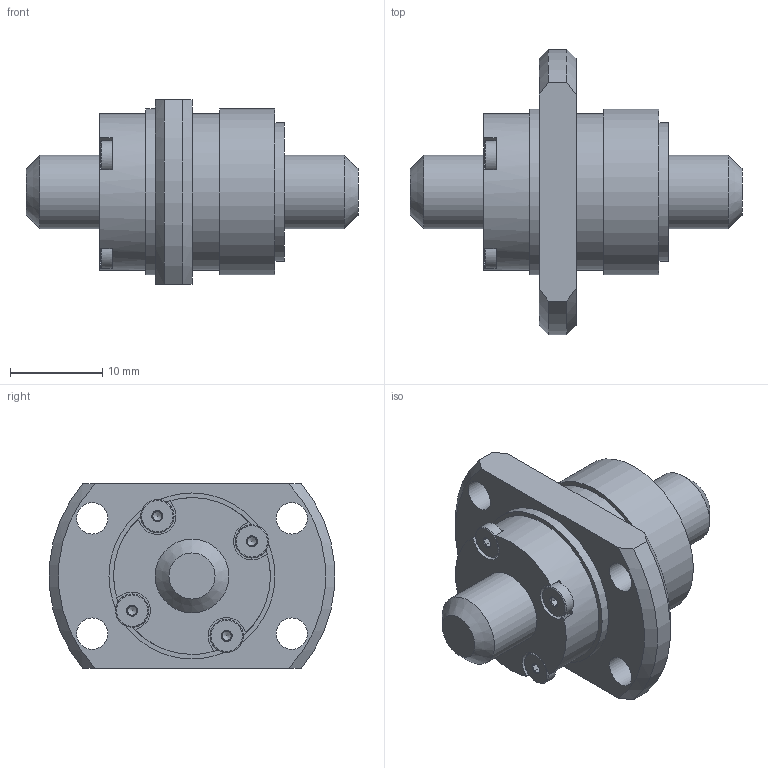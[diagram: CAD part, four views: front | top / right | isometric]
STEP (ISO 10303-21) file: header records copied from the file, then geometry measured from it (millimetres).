
FILE_DESCRIPTION(/* description */ ('STEP AP203'),/* implementation_level */ '2;1');
FILE_NAME(/* name */ 'BLK0808-3.2ZZG1+36LC3_N0_1300',/* time_stamp */ '2025-01-16T07:04:16+01:00',/* author */ ('License CC BY-ND 4.0'),/* organization */ ('CADENAS'),/* preprocessor_version */ 'ST-DEVELOPER v19.3',/* originating_system */ 'PARTsolutions',/* authorisation */ ' ');
FILE_SCHEMA (('CONFIG_CONTROL_DESIGN'));
Length unit declared in the file: millimetre
Products named in the file (3): BLK0808-3.2ZZG1+36LC3_N0_1300; NZZ0130BLK0808-3.20Shaft; NRR0130BLK0808-3.2Nut
Assembly tree (2 placements, depth 2):
  BLK0808-3.2ZZG1+36LC3_N0_1300
    NZZ0130BLK0808-3.20Shaft
    NRR0130BLK0808-3.2Nut
Bounding box: 36 x 30.91 x 20 mm (x, y, z)
Volume: 6628.4 mm3; surface area: 3936.5 mm2
Topology: 2 solids, 2 shells, 122 faces, 295 edges, 182 vertices
Faces by surface type: plane 79, cylinder 25, cone 14, torus 4
Full cylindrical faces by diameter (mm): 1 x4, 3.4 x4, 3.6 x4, 8 x2, 15 x1, 17 x2, 18 x2
Entity records: 3381 total; most frequent: CARTESIAN_POINT 647, DIRECTION 568, ORIENTED_EDGE 494, EDGE_CURVE 247, AXIS2_PLACEMENT_3D 228, FACE_BOUND 174, VERTEX_POINT 171, EDGE_LOOP 170
